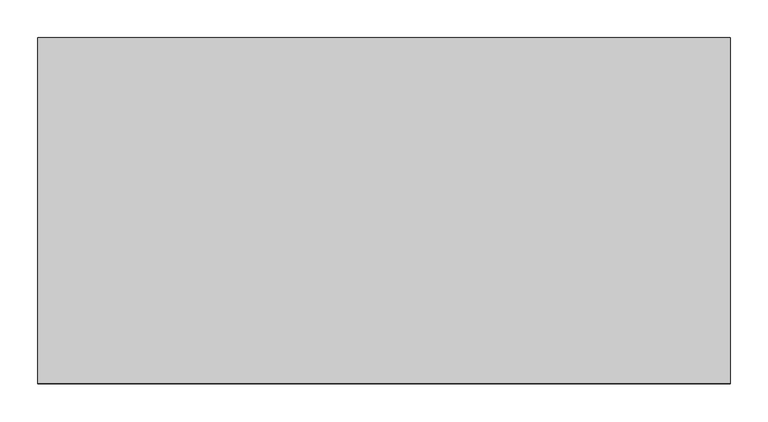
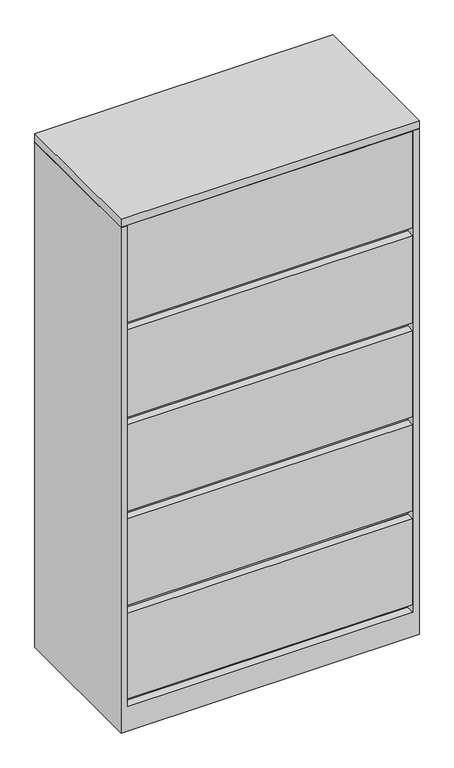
"""IFC4 building model written with IfcOpenShell, lengths in millimetres: furniture geometry, Steelcase - 900 Series - Storage - Lateral File With Roll Out Shelf - Flush Steel : 65 1/2H x 36W."""

import ifcopenshell
import ifcopenshell.guid

model = None  # the IFC model being written
_history = None  # IfcOwnerHistory: only IFC2X3 demands one
_inside = {}  # id of a spatial element -> (the spatial element, [elements in it])
_under = {}  # id of a project, library or spatial element -> (it, [spatial elements below it])
_declared = {}  # id of a project -> (the project, [libraries it declares])
_typed = {}  # id of a type object -> (the type object, [elements of that type])
_made_of = {}  # id of a material, layer set ... -> (it, [elements and type objects made of it])


def new_model(schema):
    """Start an empty IFC model of exactly this schema.

    Asked for "IFC4X3", IfcOpenShell would pick the latest addendum, in which some entities
    have other attributes; the version numbers below select the first issue.
    IFC2X3 requires an IfcOwnerHistory on every rooted entity: one is made here for all.
    """
    global model, _history
    if schema == "IFC4X3":
        model = ifcopenshell.file(schema_version=(4, 3, 0, 0))
    else:
        model = ifcopenshell.file(schema=schema)
    _inside.clear()
    _under.clear()
    _declared.clear()
    _typed.clear()
    _made_of.clear()
    _history = None
    if model.schema == "IFC2X3":
        org = make("IfcOrganization", Name="unknown")
        user = make(
            "IfcPersonAndOrganization",
            ThePerson=make("IfcPerson", FamilyName="unknown"),
            TheOrganization=org,
        )
        app = make(
            "IfcApplication",
            ApplicationDeveloper=org,
            Version="unknown",
            ApplicationFullName="unknown",
            ApplicationIdentifier="unknown",
        )
        _history = make(
            "IfcOwnerHistory",
            OwningUser=user,
            OwningApplication=app,
            ChangeAction="ADDED",
            CreationDate=0,
        )
    return model


def make(cls, **values):
    """One entity of the class cls with the attributes given. An attribute that is None is left unset."""
    return model.create_entity(
        cls, **{name: value for name, value in values.items() if value is not None}
    )


def rooted(cls, **values):
    """An entity with a GlobalId (a new one), such as an element, a storey or a relation."""
    return make(cls, GlobalId=ifcopenshell.guid.new(), OwnerHistory=_history, **values)


def si_unit(unit_type, name, prefix=None):
    """IfcSIUnit, for example si_unit("LENGTHUNIT", "METRE", prefix="MILLI")."""
    return make("IfcSIUnit", UnitType=unit_type, Prefix=prefix, Name=name)


def assignment(units):
    """IfcUnitAssignment: the units of a project."""
    return None if units is None else make("IfcUnitAssignment", Units=units)


def point(xyz):
    """IfcCartesianPoint."""
    return None if xyz is None else make("IfcCartesianPoint", Coordinates=xyz)


def direction(xyz):
    """IfcDirection."""
    return None if xyz is None else make("IfcDirection", DirectionRatios=xyz)


def frame(location, z_axis=None, x_axis=None):
    """IfcAxis2Placement3D, a coordinate frame: its origin and axes. An axis left out is left unset."""
    return make(
        "IfcAxis2Placement3D",
        Location=point(location),
        Axis=direction(z_axis),
        RefDirection=direction(x_axis),
    )


def origin():
    """The frame at (0, 0, 0) with its axes left unset."""
    return frame((0.0, 0.0, 0.0))


def place(relative_to, where):
    """IfcLocalPlacement: puts the frame where relative to a parent placement (None: the world)."""
    return make(
        "IfcLocalPlacement", PlacementRelTo=relative_to, RelativePlacement=where
    )


def context(
    kind, dimensions, precision=None, world=None, true_north=None, identifier=None
):
    """IfcGeometricRepresentationContext, for example the 3D "Model" context."""
    return make(
        "IfcGeometricRepresentationContext",
        ContextIdentifier=identifier,
        ContextType=kind,
        CoordinateSpaceDimension=dimensions,
        Precision=precision,
        WorldCoordinateSystem=world,
        TrueNorth=true_north,
    )


def project(units=None, contexts=None):
    """IfcProject with its units and contexts."""
    return rooted(
        "IfcProject",
        Name="project",
        RepresentationContexts=contexts,
        UnitsInContext=assignment(units),
    )


def spatial(cls, under=None, at=None, **own):
    """A site, building, storey or space (cls), placed at a placement, below another one or the project."""
    s = rooted(cls, ObjectPlacement=at, **own)
    if under is not None:
        _under.setdefault(under.id(), (under, []))[1].append(s)
    return s


def polyline(points):
    """IfcPolyline through the points."""
    return make("IfcPolyline", Points=[point(p) for p in points])


def outline(outer, holes=None, kind="AREA"):
    """IfcArbitraryClosedProfileDef: a profile drawn as a closed curve; with holes, ...WithVoids."""
    if holes is None:
        return make("IfcArbitraryClosedProfileDef", ProfileType=kind, OuterCurve=outer)
    return make(
        "IfcArbitraryProfileDefWithVoids",
        ProfileType=kind,
        OuterCurve=outer,
        InnerCurves=holes,
    )


def extrude(swept, where, along, depth):
    """IfcExtrudedAreaSolid: the profile swept, set in the frame where, extruded along a direction by depth."""
    return make(
        "IfcExtrudedAreaSolid",
        SweptArea=swept,
        Position=where,
        ExtrudedDirection=direction(along),
        Depth=depth,
    )


def faces_of(points, faces, orient=None, outer=None):
    """IfcFace entities. A face is a list of loops; a loop is a list of indices into points, from 0.

    orient and outer hold one flag for each loop. By default every Orientation is true, the
    first loop of a face is its IfcFaceOuterBound and the others are IfcFaceBound.
    """
    made = []
    for i, loops in enumerate(faces):
        bounds = []
        for j, loop in enumerate(loops):
            is_outer = j == 0 if outer is None else outer[i][j]
            bounds.append(
                make(
                    "IfcFaceOuterBound" if is_outer else "IfcFaceBound",
                    Bound=make("IfcPolyLoop", Polygon=[points[k] for k in loop]),
                    Orientation=True if orient is None else orient[i][j],
                )
            )
        made.append(make("IfcFace", Bounds=bounds))
    return made


def faceted_brep(points, faces, orient=None, outer=None, voids=None):
    """IfcFacetedBrep: a solid bounded by flat faces; with voids (closed shells), ...WithVoids."""
    shared = [point(p) for p in points]
    hull = make("IfcClosedShell", CfsFaces=faces_of(shared, faces, orient, outer))
    if voids is None:
        return make("IfcFacetedBrep", Outer=hull)
    return make(
        "IfcFacetedBrepWithVoids",
        Outer=hull,
        Voids=[
            make(cls, CfsFaces=faces_of(shared, fs, o, b)) for cls, fs, o, b in voids
        ],
    )


def shape(context_of_items, identifier, shape_type, items):
    """IfcShapeRepresentation: the items that make up one representation, for example the "Body"."""
    return make(
        "IfcShapeRepresentation",
        ContextOfItems=context_of_items,
        RepresentationIdentifier=identifier,
        RepresentationType=shape_type,
        Items=items,
    )


def source(mapping_origin, context_of_items, identifier, shape_type, items):
    """IfcRepresentationMap: a shape defined once, which mapped items show again and again."""
    return make(
        "IfcRepresentationMap",
        MappingOrigin=mapping_origin,
        MappedRepresentation=shape(context_of_items, identifier, shape_type, items),
    )


def transform(
    local_origin,
    x_axis=None,
    y_axis=None,
    z_axis=None,
    scale=None,
    scale2=None,
    scale3=None,
    uniform=True,
):
    """IfcCartesianTransformationOperator3D, or its non-uniform kind. x_axis, y_axis, z_axis: its Axis1, 2, 3."""
    if uniform:
        return make(
            "IfcCartesianTransformationOperator3D",
            Axis1=direction(x_axis),
            Axis2=direction(y_axis),
            LocalOrigin=point(local_origin),
            Scale=scale,
            Axis3=direction(z_axis),
        )
    return make(
        "IfcCartesianTransformationOperator3DnonUniform",
        Axis1=direction(x_axis),
        Axis2=direction(y_axis),
        LocalOrigin=point(local_origin),
        Scale=scale,
        Axis3=direction(z_axis),
        Scale2=scale2,
        Scale3=scale3,
    )


def mapped(mapping_source, mapping_target):
    """IfcMappedItem: shows the shape of a source again, moved by a transform."""
    return make(
        "IfcMappedItem", MappingSource=mapping_source, MappingTarget=mapping_target
    )


def made_of(thing, what):
    """Note that an element or type object is made of a material, layer set ...; save() writes the relation."""
    if what is not None:
        _made_of.setdefault(what.id(), (what, []))[1].append(thing)
    return thing


def element(
    cls,
    number,
    at=None,
    inside=None,
    cuts=None,
    type_object=None,
    material=None,
    context=None,
    identifier="Body",
    shape_type=None,
    held_by="IfcProductDefinitionShape",
    body=None,
    shapes=None,
    **own,
):
    """One element of the class cls, such as IfcWall. Its Tag is "e" and its number.

    at: its placement. inside: the storey or other place that contains it. cuts: it is an
    opening in that element (IfcRelVoidsElement). A single representation is given by context,
    identifier, shape_type and body (its items); several are given by shapes. held_by: the class
    of the entity that holds the representations. save() writes the other relations.
    """
    e = rooted(cls, Tag="e%d" % number, ObjectPlacement=at, **own)
    if body is not None:
        shapes = [shape(context, identifier, shape_type, body)]
    if shapes is not None:
        e.Representation = make(held_by, Representations=shapes)
    if inside is not None:
        _inside.setdefault(inside.id(), (inside, []))[1].append(e)
    if cuts is not None:
        rooted(
            "IfcRelVoidsElement", RelatingBuildingElement=cuts, RelatedOpeningElement=e
        )
    if type_object is not None:
        _typed.setdefault(type_object.id(), (type_object, []))[1].append(e)
    return made_of(e, material)


def aggregate(whole, parts):
    """IfcRelAggregates: a whole, such as a stair, and the parts it consists of."""
    return rooted("IfcRelAggregates", RelatingObject=whole, RelatedObjects=parts)


def save(model, path):
    """Write the relations noted so far, then the file.

    IfcRelAggregates (storeys below a building ...), IfcRelContainedInSpatialStructure (elements
    in a storey), IfcRelDefinesByType, IfcRelAssociatesMaterial and IfcRelDeclares: one each for
    every whole, place, type object, material and project.
    """
    for whole, parts in _under.values():
        aggregate(whole, parts)
    for where, things in _inside.values():
        rooted(
            "IfcRelContainedInSpatialStructure",
            RelatedElements=things,
            RelatingStructure=where,
        )
    for kind, things in _typed.values():
        rooted("IfcRelDefinesByType", RelatedObjects=things, RelatingType=kind)
    for what, things in _made_of.values():
        rooted("IfcRelAssociatesMaterial", RelatedObjects=things, RelatingMaterial=what)
    for by, libraries in _declared.values():
        rooted("IfcRelDeclares", RelatingContext=by, RelatedDefinitions=libraries)
    model.write(path)


def furniture_714ad1c2(model_context):
    return source(origin(), model_context, "Body", "SolidModel", [
        faceted_brep([(895.0960184, -25.2721219, 1636.776), (895.0960184, -457.2, 1636.776), (914.4, -457.2, 1636.776), (914.4, 0.0, 1636.776), (0.0, 0.0, 1636.776), (0.0, -457.2, 1636.776), (19.3039998, -457.2, 1636.776), (19.3039998, -25.2721219, 1636.776), (0.0, -457.2, 0.0), (0.0, 0.0, 0.0), (914.4, 0.0, 0.0), (914.4, -457.2, 0.0), (895.0960184, -25.2721219, 406.7048), (895.0960184, -431.800255, 406.7048), (895.0960184, -431.800255, 381.254), (895.0960184, -25.2721219, 381.254), (895.0960184, -25.2721219, 103.3780013), (895.0960184, -430.275847, 103.3780013), (895.0960184, -430.275847, 77.9779983), (895.0960184, -457.2, 77.9779983), (19.3039998, -457.2, 77.9779983), (19.3039998, -430.275847, 77.9779983), (19.3039998, -430.275847, 103.3780013), (19.3039998, -25.2721219, 103.3780013), (19.3039998, -25.2721219, 381.254), (19.3039998, -431.800255, 381.254), (19.3039998, -431.800255, 406.7048), (19.3039998, -25.2721219, 406.7048)], [[[0, 1, 2, 3, 4, 5, 6, 7]], [[8, 9, 10, 11]], [[1, 0, 12, 13, 14, 15, 16, 17, 18, 19]], [[2, 1, 19, 20, 6, 5, 8, 11]], [[3, 2, 11, 10]], [[4, 3, 10, 9]], [[5, 4, 9, 8]], [[7, 6, 20, 21, 22, 23, 24, 25, 26, 27]], [[0, 7, 27, 12]], [[16, 15, 24, 23]], [[18, 21, 20, 19]], [[22, 17, 16, 23]], [[21, 18, 17, 22]], [[26, 13, 12, 27]], [[13, 26, 25, 14]], [[14, 25, 24, 15]]]),
        extrude(outline(polyline([(893.5722015, -457.2), (20.8289612, -457.2), (20.8289612, -431.800255), (893.5722015, -431.800255), (893.5722015, -457.2)])), frame((0.0, 0.0, 1323.975), z_axis=(0.0, 0.0, 1.0), x_axis=(1.0, 0.0, 0.0)), (0.0, 0.0, 1.0), 312.801),
        extrude(outline(polyline([(895.0960184, -25.2721219), (895.0960184, -431.800255), (19.3039998, -431.800255), (19.3039998, -25.2721219), (895.0960184, -25.2721219)])), frame((0.0, 0.0, 686.1048), z_axis=(0.0, 0.0, 1.0), x_axis=(1.0, 0.0, 0.0)), (0.0, 0.0, 1.0), 25.4),
        extrude(outline(polyline([(893.5722015, -457.2), (20.8289612, -457.2), (20.8289612, -431.800255), (893.5722015, -431.800255), (893.5722015, -457.2)])), frame((0.0, 0.0, 1016.3048), z_axis=(0.0, 0.0, 1.0), x_axis=(1.0, 0.0, 0.0)), (0.0, 0.0, 1.0), 282.2702),
        extrude(outline(polyline([(893.5722015, -457.2), (20.8289612, -457.2), (20.8289612, -431.800255), (893.5722015, -431.800255), (893.5722015, -457.2)])), frame((0.0, 0.0, 711.5048), z_axis=(0.0, 0.0, 1.0), x_axis=(1.0, 0.0, 0.0)), (0.0, 0.0, 1.0), 279.4),
        extrude(outline(polyline([(895.0960184, -25.2721219), (895.0960184, -431.800255), (19.3039998, -431.800255), (19.3039998, -25.2721219), (895.0960184, -25.2721219)])), frame((0.0, 0.0, 1298.575), z_axis=(0.0, 0.0, 1.0), x_axis=(1.0, 0.0, 0.0)), (0.0, 0.0, 1.0), 25.4),
        extrude(outline(polyline([(895.0960184, -25.2721219), (895.0960184, -431.800255), (19.3039998, -431.800255), (19.3039998, -25.2721219), (895.0960184, -25.2721219)])), frame((0.0, 0.0, 990.9048), z_axis=(0.0, 0.0, 1.0), x_axis=(1.0, 0.0, 0.0)), (0.0, 0.0, 1.0), 25.4),
        faceted_brep([(914.4, 0.0, 1663.7), (0.0, 0.0, 1663.7), (0.0, -457.2, 1663.7), (914.4, -457.2, 1663.7), (914.4, 0.0, 1638.2999516), (914.4, -457.2, 1638.2999516), (0.0, -457.2, 1638.2999516), (0.0, 0.0, 1638.2999516), (895.0960184, -25.2721219, 1638.2999516), (20.8289612, -25.2721219, 1638.2999516), (20.8289612, -415.9241219, 1638.2999516), (895.0960184, -415.9241219, 1638.2999516), (895.0960184, -25.2721219, 1636.776), (895.0960184, -415.9241219, 1636.776), (20.8289612, -415.9241219, 1636.776), (20.8289612, -25.2721219, 1636.776)], [[[0, 1, 2, 3]], [[4, 5, 6, 7], [8, 9, 10, 11]], [[1, 0, 4, 7]], [[2, 1, 7, 6]], [[3, 2, 6, 5]], [[0, 3, 5, 4]], [[12, 13, 14, 15]], [[12, 15, 9, 8]], [[15, 14, 10, 9]], [[14, 13, 11, 10]], [[13, 12, 8, 11]]]),
        extrude(outline(polyline([(893.5722015, -457.2), (20.8289612, -457.2), (20.8289612, -431.800255), (893.5722015, -431.800255), (893.5722015, -457.2)])), frame((0.0, 0.0, 103.3780013), z_axis=(0.0, 0.0, 1.0), x_axis=(1.0, 0.0, 0.0)), (0.0, 0.0, 1.0), 277.8759987),
        extrude(outline(polyline([(893.5722015, -457.2), (20.8289612, -457.2), (20.8289612, -431.800255), (893.5722015, -431.800255), (893.5722015, -457.2)])), frame((0.0, 0.0, 406.7048), z_axis=(0.0, 0.0, 1.0), x_axis=(1.0, 0.0, 0.0)), (0.0, 0.0, 1.0), 279.4),
    ])


if __name__ == "__main__":
    model = new_model("IFC4")
    model_context = context("Model", 3, world=origin())
    ifc_project = project(units=[si_unit("LENGTHUNIT", "METRE", prefix="MILLI")], contexts=[model_context])
    site = spatial("IfcSite", under=ifc_project)
    building = spatial("IfcBuilding", under=site)
    placement = place(None, origin())
    furniture_shape = furniture_714ad1c2(model_context)
    element("IfcFurniture", 1, ObjectType="Steelcase - 900 Series - Storage - Lateral File With Roll Out Shelf - Flush Steel : 65 1/2H x 36W", at=placement, inside=building, context=model_context, shape_type="MappedRepresentation", body=[
        mapped(furniture_shape, transform((0.0, 0.0, 0.0), x_axis=(1.0, 0.0, 0.0), y_axis=(0.0, 1.0, 0.0), z_axis=(0.0, 0.0, 1.0))),
    ])
    save(model, "model.ifc")
